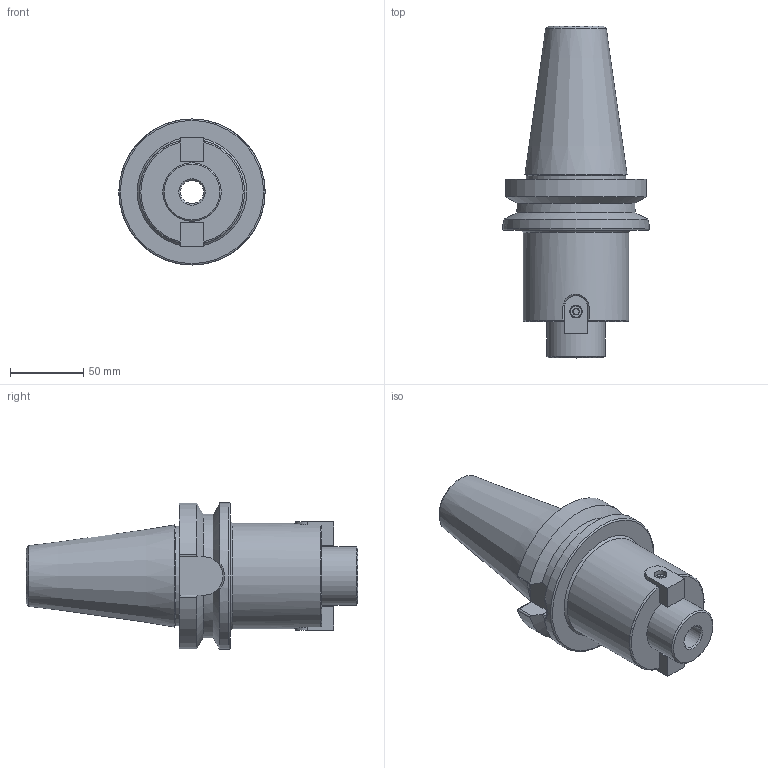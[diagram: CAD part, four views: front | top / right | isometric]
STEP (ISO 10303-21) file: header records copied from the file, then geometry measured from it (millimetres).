
FILE_DESCRIPTION(/* description */ (''),/* implementation_level */ '2;1');
FILE_NAME(/* name */ 'Z:\Проектный отдел\Даниил\Патроны\BT50-FMB40-100\BT50-FMB40-100 ПРАВКА.stp',/* time_stamp */ '2023-10-18T11:38:51+03:00',/* author */ ('Бакал Владислав'),/* organization */ (''),/* preprocessor_version */ 'ST-DEVELOPER v18',/* originating_system */ 'Autodesk Inventor 2020',/* authorisation */ '');
FILE_SCHEMA (('AUTOMOTIVE_DESIGN { 1 0 10303 214 3 1 1 }'));
Length unit declared in the file: millimetre
Products named in the file (4): BT50-FMB40-100 ПРАВКА; BT50-FMB40-100 правка_1; Деталь для F
MB40; M 5x20
Assembly tree (5 placements, depth 2):
  BT50-FMB40-100 ПРАВКА
    BT50-FMB40-100 правка_1
    M 5x20  x2
    Деталь для F
MB40  x2
Bounding box: 100 x 227.1 x 100 mm (x, y, z)
Volume: 714433.9 mm3; surface area: 82538.8 mm2
Topology: 5 solids, 5 shells, 123 faces, 334 edges, 230 vertices
Faces by surface type: plane 53, cylinder 35, cone 26, torus 5, bspline 4
Full cylindrical faces by diameter (mm): 5 x4, 5.7 x2, 8.5 x2, 8.7 x2, 16 x1, 21.3 x1, 25 x1, 40 x1, 68.4 x1, 72 x1, 100 x1
Entity records: 3651 total; most frequent: CARTESIAN_POINT 1130, ORIENTED_EDGE 516, DIRECTION 491, EDGE_CURVE 258, AXIS2_PLACEMENT_3D 199, VERTEX_POINT 178, EDGE_LOOP 110, CIRCLE 96
